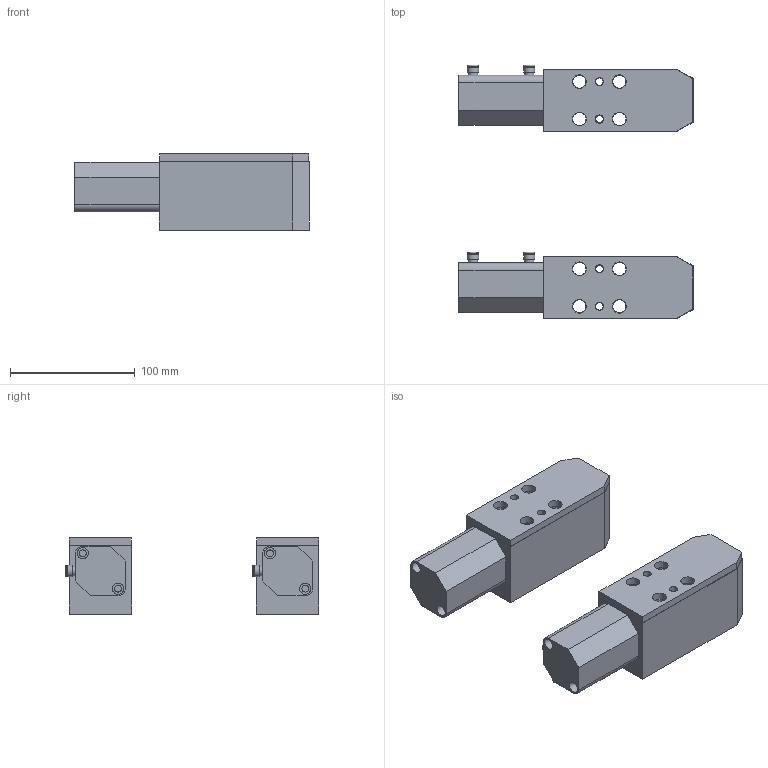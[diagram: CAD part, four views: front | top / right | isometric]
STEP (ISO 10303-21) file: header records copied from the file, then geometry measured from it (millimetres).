
FILE_DESCRIPTION(('STEP AP214'),'1');
FILE_NAME('1001.0016.stp','2020-05-22T14:12:12',(' '),(' '),'Spatial InterOp 3D',' ',' ');
FILE_SCHEMA(('AUTOMOTIVE_DESIGN { 1 0 10303 214 1 1 1 1 }'));
Length unit declared in the file: millimetre
Products named in the file (7): (PMS) 1001.0016; 5; 3; Assemblato; (PMI) 1001.0016; 6; 1
Assembly tree (6 placements, depth 3):
  Assemblato
    (PMS) 1001.0016
      5
      3
    (PMI) 1001.0016
      6
      1
Bounding box: 187.5 x 203.25 x 61 mm (x, y, z)
Volume: 803241.3 mm3; surface area: 148033.6 mm2
Topology: 4 solids, 4 shells, 768 faces, 2008 edges, 1340 vertices
Faces by surface type: extrusion 362, plane 270, cylinder 118, torus 12, cone 4, sphere 2
Full cylindrical faces by diameter (mm): 5.5 x4, 6 x4, 6.5 x4, 6.8 x4, 7.5 x8, 9 x12, 10.5 x8, 11 x8, 16 x2, 16.9 x8
Entity records: 29890 total; most frequent: CARTESIAN_POINT 6247, ORIENTED_EDGE 3812, DIRECTION 2624, EDGE_CURVE 1906, VERTEX_POINT 1318, VECTOR 1290, B_SPLINE_CURVE_WITH_KNOTS 1088, EDGE_LOOP 964
